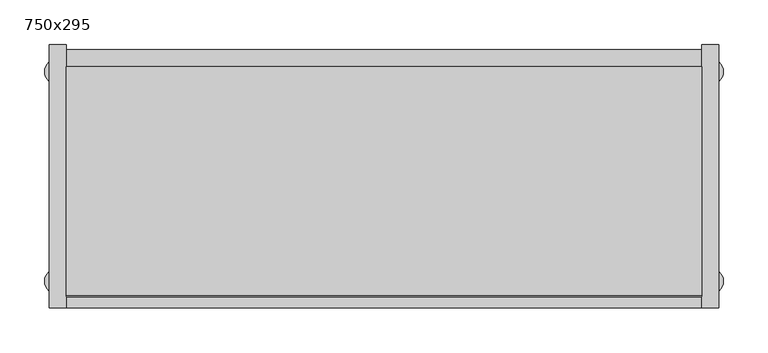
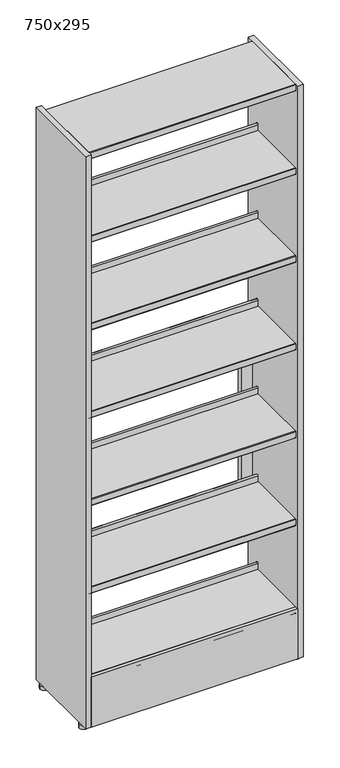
"""IFC4 building model written with IfcOpenShell, lengths in millimetres: furniture geometry, BK Library - Smaaland ES - 2100 : 750x295."""

from ifc_helpers import new_model, si_unit, point, frame, frame_2d, origin, origin_with_axes, place, context, project, spatial, polyline, circle_curve, trimmed, segment, composite_curve, outline, extrude, source, transform, mapped, element, save


def furniture_750x295_5d69b9cf(model_context):
    return source(origin(), model_context, "Body", "SweptSolid", [
        extrude(outline(composite_curve([segment(trimmed(circle_curve(frame_2d((365.5005427, 117.4952633)), 14.4994573), [point((380.0, 117.4952633))], [point((351.0010853, 117.4952633))], False, "CARTESIAN"), True, "CONTINUOUS"), segment(trimmed(circle_curve(frame_2d((365.5005427, 117.4952633)), 14.4994573), [point((351.0010853, 117.4952633))], [point((380.0, 117.4952633))], False, "CARTESIAN"), True, "CONTINUOUS")], self_intersect=False)), origin_with_axes(), (0.0, 0.0, 1.0), 13.6999998),
        extrude(outline(composite_curve([segment(trimmed(circle_curve(frame_2d((-365.5005427, 117.4952633)), 14.4994573), [point((-380.0, 117.4952633))], [point((-351.0010853, 117.4952633))], False, "CARTESIAN"), True, "CONTINUOUS"), segment(trimmed(circle_curve(frame_2d((-365.5005427, 117.4952633)), 14.4994573), [point((-351.0010853, 117.4952633))], [point((-380.0, 117.4952633))], False, "CARTESIAN"), True, "CONTINUOUS")], self_intersect=False)), origin_with_axes(), (0.0, 0.0, 1.0), 13.6999998),
        extrude(outline(composite_curve([segment(trimmed(circle_curve(frame_2d((365.5005427, -117.4952633)), 14.4994573), [point((380.0, -117.4952633))], [point((351.0010853, -117.4952633))], False, "CARTESIAN"), True, "CONTINUOUS"), segment(trimmed(circle_curve(frame_2d((365.5005427, -117.4952633)), 14.4994573), [point((351.0010853, -117.4952633))], [point((380.0, -117.4952633))], False, "CARTESIAN"), True, "CONTINUOUS")], self_intersect=False)), origin_with_axes(), (0.0, 0.0, 1.0), 13.6999998),
        extrude(outline(composite_curve([segment(trimmed(circle_curve(frame_2d((-365.5005427, -117.4952633)), 14.4994573), [point((-380.0, -117.4952633))], [point((-351.0010853, -117.4952633))], False, "CARTESIAN"), True, "CONTINUOUS"), segment(trimmed(circle_curve(frame_2d((-365.5005427, -117.4952633)), 14.4994573), [point((-351.0010853, -117.4952633))], [point((-380.0, -117.4952633))], False, "CARTESIAN"), True, "CONTINUOUS")], self_intersect=False)), origin_with_axes(), (0.0, 0.0, 1.0), 13.6999998),
        extrude(outline(polyline([(1106.1999512, -356.0), (391.1999512, -356.0), (391.1999512, 356.0), (1106.1999512, 356.0), (1106.1999512, -356.0)]), holes=[polyline([(1066.1999514, -317.5), (1066.1999514, 317.5), (431.1999514, 317.5), (431.1999514, -317.5), (1066.1999514, -317.5)])]), frame((0.0, 123.0, 0.0), z_axis=(0.0, 1.0, 0.0), x_axis=(0.0, 0.0, 1.0)), (0.0, 0.0, 1.0), 19.0),
        extrude(outline(polyline([(356.0, -135.2476624), (356.0, -147.5), (-356.0, -147.5), (-356.0, -135.2476624), (356.0, -135.2476624)])), frame((0.0, 0.0, 13.6999998), z_axis=(0.0, 0.0, 1.0), x_axis=(1.0, 0.0, 0.0)), (0.0, 0.0, 1.0), 181.4999514),
        extrude(outline(composite_curve([segment(polyline([(123.0, 2100.0), (123.0, 2098.0), (-133.75, 2098.0), (-133.75, 2076.5), (-121.75, 2076.5), (-121.75, 2075.0), (-133.75, 2075.0)]), True, "CONTINUOUS"), segment(trimmed(circle_curve(frame_2d((-133.75, 2076.5)), 1.5), [point((-133.75, 2075.0))], [point((-135.25, 2076.5))], False, "CARTESIAN"), True, "CONTINUOUS"), segment(polyline([(-135.25, 2076.5), (-135.25, 2098.5)]), True, "CONTINUOUS"), segment(trimmed(circle_curve(frame_2d((-133.75, 2098.5)), 1.5), [point((-135.25, 2098.5))], [point((-133.75, 2100.0))], False, "CARTESIAN"), True, "CONTINUOUS"), segment(polyline([(-133.75, 2100.0), (123.0, 2100.0)]), True, "CONTINUOUS")], self_intersect=False)), frame((-356.0, 0.0, 0.0), z_axis=(1.0, 0.0, 0.0), x_axis=(0.0, 1.0, 0.0)), (0.0, 0.0, 1.0), 712.0),
        extrude(outline(composite_curve([segment(polyline([(89.75, 1795.1999512), (89.75, 1816.7196336)]), True, "CONTINUOUS"), segment(trimmed(circle_curve(frame_2d((93.25, 1816.7196336)), 3.5), [point((89.75, 1816.7196336))], [point((96.75, 1816.7196336))], False, "CARTESIAN"), True, "CONTINUOUS"), segment(polyline([(96.75, 1816.7196336), (96.75, 1808.1999512), (95.25, 1808.1999512), (95.25, 1816.7020126)]), True, "CONTINUOUS"), segment(trimmed(circle_curve(frame_2d((93.25, 1816.7020126)), 2.0), [point((95.25, 1816.7020126))], [point((91.25, 1816.7020126))], True, "CARTESIAN"), True, "CONTINUOUS"), segment(polyline([(91.25, 1816.7020126), (91.25, 1795.1547733)]), True, "CONTINUOUS"), segment(trimmed(circle_curve(frame_2d((89.7951779, 1795.1547733)), 1.4548221), [point((91.25, 1795.1547733))], [point((89.7951779, 1793.6999512))], False, "CARTESIAN"), True, "CONTINUOUS"), segment(polyline([(89.7951779, 1793.6999512), (-133.75, 1793.6999512), (-133.75, 1772.1999512), (-121.75, 1772.1999512), (-121.75, 1770.6999512), (-133.75, 1770.6999512)]), True, "CONTINUOUS"), segment(trimmed(circle_curve(frame_2d((-133.75, 1772.1999512)), 1.5), [point((-133.75, 1770.6999512))], [point((-135.25, 1772.1999512))], False, "CARTESIAN"), True, "CONTINUOUS"), segment(polyline([(-135.25, 1772.1999512), (-135.25, 1793.6999512)]), True, "CONTINUOUS"), segment(trimmed(circle_curve(frame_2d((-133.75, 1793.6999512)), 1.5), [point((-135.25, 1793.6999512))], [point((-133.75, 1795.1999512))], False, "CARTESIAN"), True, "CONTINUOUS"), segment(polyline([(-133.75, 1795.1999512), (89.75, 1795.1999512)]), True, "CONTINUOUS")], self_intersect=False)), frame((-356.0, 0.0, 0.0), z_axis=(1.0, 0.0, 0.0), x_axis=(0.0, 1.0, 0.0)), (0.0, 0.0, 1.0), 712.0),
        extrude(outline(composite_curve([segment(polyline([(89.75, 1475.1999512), (89.75, 1496.7196336)]), True, "CONTINUOUS"), segment(trimmed(circle_curve(frame_2d((93.25, 1496.7196336)), 3.5), [point((89.75, 1496.7196336))], [point((96.75, 1496.7196336))], False, "CARTESIAN"), True, "CONTINUOUS"), segment(polyline([(96.75, 1496.7196336), (96.75, 1488.1999512), (95.25, 1488.1999512), (95.25, 1496.7020126)]), True, "CONTINUOUS"), segment(trimmed(circle_curve(frame_2d((93.25, 1496.7020126)), 2.0), [point((95.25, 1496.7020126))], [point((91.25, 1496.7020126))], True, "CARTESIAN"), True, "CONTINUOUS"), segment(polyline([(91.25, 1496.7020126), (91.25, 1475.1547733)]), True, "CONTINUOUS"), segment(trimmed(circle_curve(frame_2d((89.7951779, 1475.1547733)), 1.4548221), [point((91.25, 1475.1547733))], [point((89.7951779, 1473.6999512))], False, "CARTESIAN"), True, "CONTINUOUS"), segment(polyline([(89.7951779, 1473.6999512), (-133.75, 1473.6999512), (-133.75, 1452.1999512), (-121.75, 1452.1999512), (-121.75, 1450.6999512), (-133.75, 1450.6999512)]), True, "CONTINUOUS"), segment(trimmed(circle_curve(frame_2d((-133.75, 1452.1999512)), 1.5), [point((-133.75, 1450.6999512))], [point((-135.25, 1452.1999512))], False, "CARTESIAN"), True, "CONTINUOUS"), segment(polyline([(-135.25, 1452.1999512), (-135.25, 1473.6999512)]), True, "CONTINUOUS"), segment(trimmed(circle_curve(frame_2d((-133.75, 1473.6999512)), 1.5), [point((-135.25, 1473.6999512))], [point((-133.75, 1475.1999512))], False, "CARTESIAN"), True, "CONTINUOUS"), segment(polyline([(-133.75, 1475.1999512), (89.75, 1475.1999512)]), True, "CONTINUOUS")], self_intersect=False)), frame((-356.0, 0.0, 0.0), z_axis=(1.0, 0.0, 0.0), x_axis=(0.0, 1.0, 0.0)), (0.0, 0.0, 1.0), 712.0),
        extrude(outline(composite_curve([segment(polyline([(89.75, 1155.1999512), (89.75, 1176.7196336)]), True, "CONTINUOUS"), segment(trimmed(circle_curve(frame_2d((93.25, 1176.7196336)), 3.5), [point((89.75, 1176.7196336))], [point((96.75, 1176.7196336))], False, "CARTESIAN"), True, "CONTINUOUS"), segment(polyline([(96.75, 1176.7196336), (96.75, 1168.1999512), (95.25, 1168.1999512), (95.25, 1176.7020126)]), True, "CONTINUOUS"), segment(trimmed(circle_curve(frame_2d((93.25, 1176.7020126)), 2.0), [point((95.25, 1176.7020126))], [point((91.25, 1176.7020126))], True, "CARTESIAN"), True, "CONTINUOUS"), segment(polyline([(91.25, 1176.7020126), (91.25, 1155.1547733)]), True, "CONTINUOUS"), segment(trimmed(circle_curve(frame_2d((89.7951779, 1155.1547733)), 1.4548221), [point((91.25, 1155.1547733))], [point((89.7951779, 1153.6999512))], False, "CARTESIAN"), True, "CONTINUOUS"), segment(polyline([(89.7951779, 1153.6999512), (-133.75, 1153.6999512), (-133.75, 1132.1999512), (-121.75, 1132.1999512), (-121.75, 1130.6999512), (-133.75, 1130.6999512)]), True, "CONTINUOUS"), segment(trimmed(circle_curve(frame_2d((-133.75, 1132.1999512)), 1.5), [point((-133.75, 1130.6999512))], [point((-135.25, 1132.1999512))], False, "CARTESIAN"), True, "CONTINUOUS"), segment(polyline([(-135.25, 1132.1999512), (-135.25, 1153.6999512)]), True, "CONTINUOUS"), segment(trimmed(circle_curve(frame_2d((-133.75, 1153.6999512)), 1.5), [point((-135.25, 1153.6999512))], [point((-133.75, 1155.1999512))], False, "CARTESIAN"), True, "CONTINUOUS"), segment(polyline([(-133.75, 1155.1999512), (89.75, 1155.1999512)]), True, "CONTINUOUS")], self_intersect=False)), frame((-356.0, 0.0, 0.0), z_axis=(1.0, 0.0, 0.0), x_axis=(0.0, 1.0, 0.0)), (0.0, 0.0, 1.0), 712.0),
        extrude(outline(composite_curve([segment(polyline([(89.75, 835.1999512), (89.75, 856.7196336)]), True, "CONTINUOUS"), segment(trimmed(circle_curve(frame_2d((93.25, 856.7196336)), 3.5), [point((89.75, 856.7196336))], [point((96.75, 856.7196336))], False, "CARTESIAN"), True, "CONTINUOUS"), segment(polyline([(96.75, 856.7196336), (96.75, 848.1999512), (95.25, 848.1999512), (95.25, 856.7020126)]), True, "CONTINUOUS"), segment(trimmed(circle_curve(frame_2d((93.25, 856.7020126)), 2.0), [point((95.25, 856.7020126))], [point((91.25, 856.7020126))], True, "CARTESIAN"), True, "CONTINUOUS"), segment(polyline([(91.25, 856.7020126), (91.25, 835.1547733)]), True, "CONTINUOUS"), segment(trimmed(circle_curve(frame_2d((89.7951779, 835.1547733)), 1.4548221), [point((91.25, 835.1547733))], [point((89.7951779, 833.6999512))], False, "CARTESIAN"), True, "CONTINUOUS"), segment(polyline([(89.7951779, 833.6999512), (-133.75, 833.6999512), (-133.75, 812.1999512), (-121.75, 812.1999512), (-121.75, 810.6999512), (-133.75, 810.6999512)]), True, "CONTINUOUS"), segment(trimmed(circle_curve(frame_2d((-133.75, 812.1999512)), 1.5), [point((-133.75, 810.6999512))], [point((-135.25, 812.1999512))], False, "CARTESIAN"), True, "CONTINUOUS"), segment(polyline([(-135.25, 812.1999512), (-135.25, 833.6999512)]), True, "CONTINUOUS"), segment(trimmed(circle_curve(frame_2d((-133.75, 833.6999512)), 1.5), [point((-135.25, 833.6999512))], [point((-133.75, 835.1999512))], False, "CARTESIAN"), True, "CONTINUOUS"), segment(polyline([(-133.75, 835.1999512), (89.75, 835.1999512)]), True, "CONTINUOUS")], self_intersect=False)), frame((-356.0, 0.0, 0.0), z_axis=(1.0, 0.0, 0.0), x_axis=(0.0, 1.0, 0.0)), (0.0, 0.0, 1.0), 712.0),
        extrude(outline(composite_curve([segment(polyline([(89.75, 515.1999512), (89.75, 536.7196336)]), True, "CONTINUOUS"), segment(trimmed(circle_curve(frame_2d((93.25, 536.7196336)), 3.5), [point((89.75, 536.7196336))], [point((96.75, 536.7196336))], False, "CARTESIAN"), True, "CONTINUOUS"), segment(polyline([(96.75, 536.7196336), (96.75, 528.1999512), (95.25, 528.1999512), (95.25, 536.7020126)]), True, "CONTINUOUS"), segment(trimmed(circle_curve(frame_2d((93.25, 536.7020126)), 2.0), [point((95.25, 536.7020126))], [point((91.25, 536.7020126))], True, "CARTESIAN"), True, "CONTINUOUS"), segment(polyline([(91.25, 536.7020126), (91.25, 515.1547733)]), True, "CONTINUOUS"), segment(trimmed(circle_curve(frame_2d((89.7951779, 515.1547733)), 1.4548221), [point((91.25, 515.1547733))], [point((89.7951779, 513.6999512))], False, "CARTESIAN"), True, "CONTINUOUS"), segment(polyline([(89.7951779, 513.6999512), (-133.75, 513.6999512), (-133.75, 492.1999512), (-121.75, 492.1999512), (-121.75, 490.6999512), (-133.75, 490.6999512)]), True, "CONTINUOUS"), segment(trimmed(circle_curve(frame_2d((-133.75, 492.1999512)), 1.5), [point((-133.75, 490.6999512))], [point((-135.25, 492.1999512))], False, "CARTESIAN"), True, "CONTINUOUS"), segment(polyline([(-135.25, 492.1999512), (-135.25, 513.6999512)]), True, "CONTINUOUS"), segment(trimmed(circle_curve(frame_2d((-133.75, 513.6999512)), 1.5), [point((-135.25, 513.6999512))], [point((-133.75, 515.1999512))], False, "CARTESIAN"), True, "CONTINUOUS"), segment(polyline([(-133.75, 515.1999512), (89.75, 515.1999512)]), True, "CONTINUOUS")], self_intersect=False)), frame((-356.0, 0.0, 0.0), z_axis=(1.0, 0.0, 0.0), x_axis=(0.0, 1.0, 0.0)), (0.0, 0.0, 1.0), 712.0),
        extrude(outline(composite_curve([segment(polyline([(89.75, 195.1999512), (89.75, 216.7196336)]), True, "CONTINUOUS"), segment(trimmed(circle_curve(frame_2d((93.25, 216.7196336)), 3.5), [point((89.75, 216.7196336))], [point((96.75, 216.7196336))], False, "CARTESIAN"), True, "CONTINUOUS"), segment(polyline([(96.75, 216.7196336), (96.75, 208.1999512), (95.25, 208.1999512), (95.25, 216.7020126)]), True, "CONTINUOUS"), segment(trimmed(circle_curve(frame_2d((93.25, 216.7020126)), 2.0), [point((95.25, 216.7020126))], [point((91.25, 216.7020126))], True, "CARTESIAN"), True, "CONTINUOUS"), segment(polyline([(91.25, 216.7020126), (91.25, 195.1547733)]), True, "CONTINUOUS"), segment(trimmed(circle_curve(frame_2d((89.7951779, 195.1547733)), 1.4548221), [point((91.25, 195.1547733))], [point((89.7951779, 193.6999512))], False, "CARTESIAN"), True, "CONTINUOUS"), segment(polyline([(89.7951779, 193.6999512), (-133.75, 193.6999512), (-133.75, 172.1999512), (-121.75, 172.1999512), (-121.75, 170.6999512), (-133.75, 170.6999512)]), True, "CONTINUOUS"), segment(trimmed(circle_curve(frame_2d((-133.75, 172.1999512)), 1.5), [point((-133.75, 170.6999512))], [point((-135.25, 172.1999512))], False, "CARTESIAN"), True, "CONTINUOUS"), segment(polyline([(-135.25, 172.1999512), (-135.25, 193.6999512)]), True, "CONTINUOUS"), segment(trimmed(circle_curve(frame_2d((-133.75, 193.6999512)), 1.5), [point((-135.25, 193.6999512))], [point((-133.75, 195.1999512))], False, "CARTESIAN"), True, "CONTINUOUS"), segment(polyline([(-133.75, 195.1999512), (89.75, 195.1999512)]), True, "CONTINUOUS")], self_intersect=False)), frame((-356.0, 0.0, 0.0), z_axis=(1.0, 0.0, 0.0), x_axis=(0.0, 1.0, 0.0)), (0.0, 0.0, 1.0), 712.0),
        extrude(outline(polyline([(356.0, 147.5), (375.0, 147.5), (375.0, -147.5), (356.0, -147.5), (356.0, 147.5)])), frame((0.0, 0.0, 13.6999998), z_axis=(0.0, 0.0, 1.0), x_axis=(1.0, 0.0, 0.0)), (0.0, 0.0, 1.0), 2086.3000002),
        extrude(outline(polyline([(-356.0, 147.5), (-356.0, -147.5), (-375.0, -147.5), (-375.0, 147.5), (-356.0, 147.5)])), frame((0.0, 0.0, 13.6999998), z_axis=(0.0, 0.0, 1.0), x_axis=(1.0, 0.0, 0.0)), (0.0, 0.0, 1.0), 2086.3000002),
    ])


if __name__ == "__main__":
    model = new_model("IFC4")
    model_context = context("Model", 3, world=origin())
    ifc_project = project(units=[si_unit("LENGTHUNIT", "METRE", prefix="MILLI")], contexts=[model_context])
    site = spatial("IfcSite", under=ifc_project)
    building = spatial("IfcBuilding", under=site)
    placement = place(None, origin())
    furniture_750x295_shape = furniture_750x295_5d69b9cf(model_context)
    element("IfcFurniture", 1, ObjectType="BK Library - Smaaland ES - 2100 : 750x295", at=placement, inside=building, context=model_context, shape_type="MappedRepresentation", body=[
        mapped(furniture_750x295_shape, transform((0.0, 0.0, 0.0), x_axis=(1.0, 0.0, 0.0), y_axis=(0.0, 1.0, 0.0), z_axis=(0.0, 0.0, 1.0))),
    ])
    save(model, "model.ifc")
